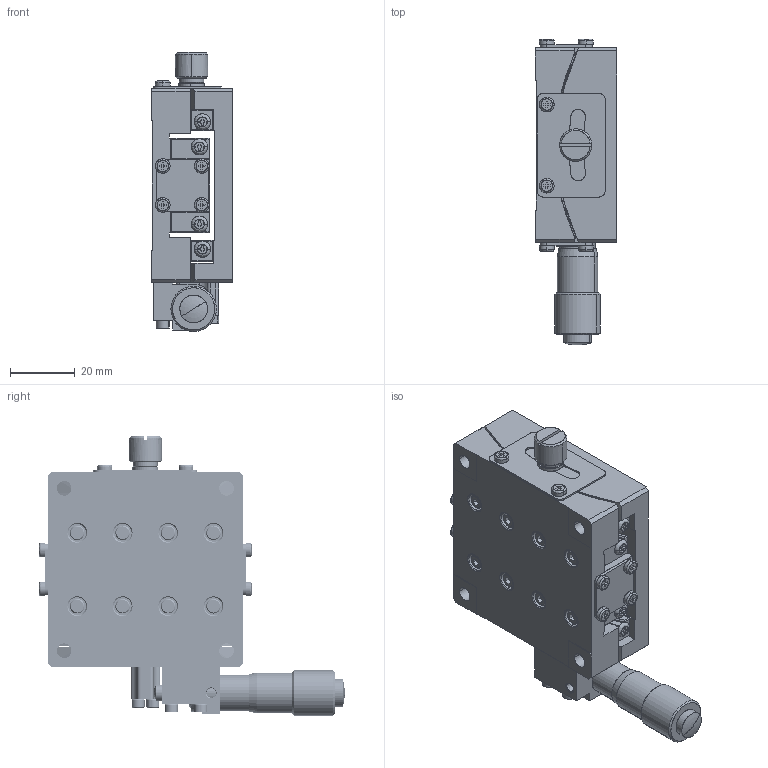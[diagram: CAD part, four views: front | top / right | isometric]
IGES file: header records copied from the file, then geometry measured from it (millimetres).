
Start section: SolidWorks IGES file using analytic representation for surfaces
Global section: file name: E:\0产品2d3d图纸-20180629\10PHT\60A\IGS\PHT-60A50SR.IGS; native system: SolidWorks 2015; preprocessor: SolidWorks 2015; author: Administrator; date: 190121.144041; units: millimetre
Bounding box: 25 x 94.11 x 86 mm (x, y, z)
Surface area: 47234.3 mm2 (no closed solid volume)
Topology: 0 solids, 0 shells, 1721 faces, 22196 edges, 22188 vertices
Faces by surface type: revolution 927, bspline 794
